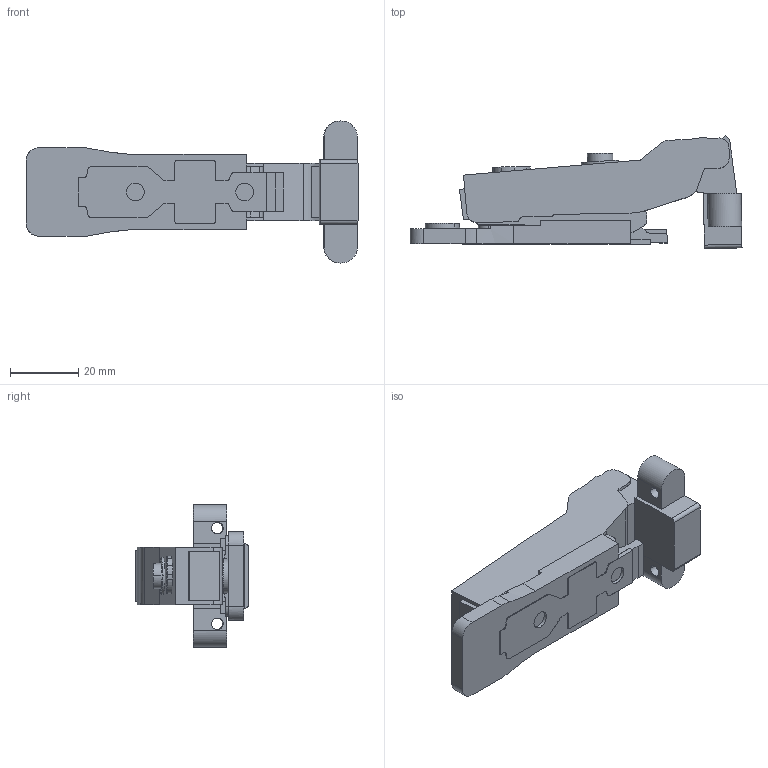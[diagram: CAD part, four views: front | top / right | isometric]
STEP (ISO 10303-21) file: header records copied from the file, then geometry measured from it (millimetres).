
FILE_DESCRIPTION (( 'STEP AP203' ), '1' );
FILE_NAME ('C80B678F+80H20YQ-DTC 3D close.STEP', '2023-10-07T06:59:12', ( 'Windows 蚚誧' ), ( '' ), 'SwSTEP 2.0', 'SolidWorks 2018', '' );
FILE_SCHEMA (( 'CONFIG_CONTROL_DESIGN' ));
Length unit declared in the file: millimetre
Products named in the file (1): C80B678F+80H20YQ-DTC 3D  close
Bounding box: 97.15 x 33.09 x 41.6 mm (x, y, z)
Surface area: 11158.1 mm2 (no closed solid volume)
Topology: 0 solids, 2 shells, 215 faces, 621 edges, 415 vertices
Faces by surface type: plane 118, cylinder 88, bspline 7, torus 2
Entity records: 8737 total; most frequent: CARTESIAN_POINT 4257, ORIENTED_EDGE 1238, EDGE_CURVE 621, B_SPLINE_CURVE_WITH_KNOTS 615, DIRECTION 419, VERTEX_POINT 415, EDGE_LOOP 226, ADVANCED_FACE 215
